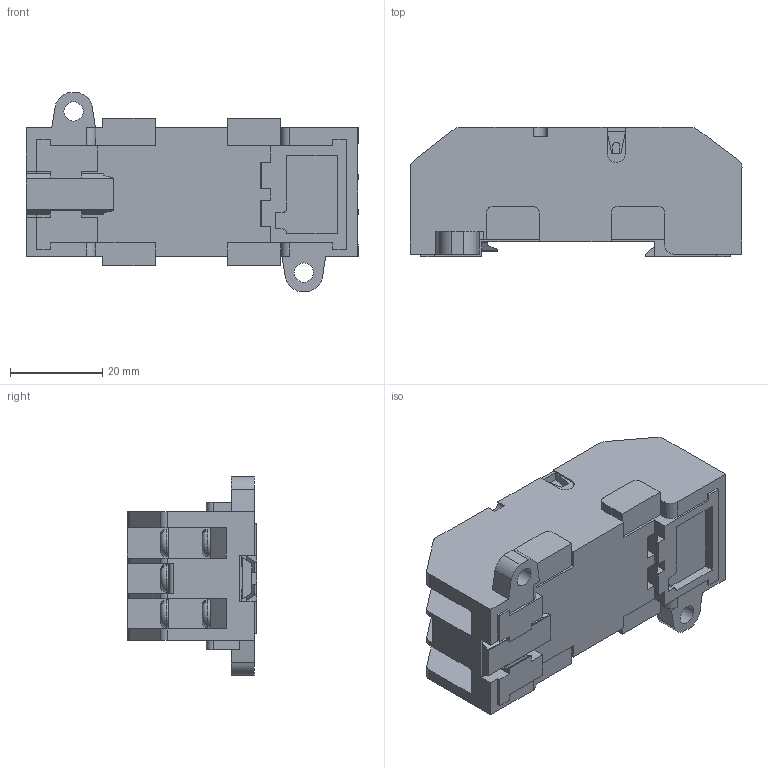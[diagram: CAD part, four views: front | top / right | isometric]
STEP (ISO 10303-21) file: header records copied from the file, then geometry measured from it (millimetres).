
FILE_DESCRIPTION(('STEP AP214'), '1');
FILE_NAME('Êîëîäêà ÐÏ21-003 òèï 3', '', ('UNSPECIFIED'), ('UNSPECIFIED'), 'ASCON STEP Converter 1.6', 'ASCON Math Kernel', '');
FILE_SCHEMA(('AUTOMOTIVE_DESIGN { 1 0 10303 214 3 1 1}'));
Length unit declared in the file: millimetre
Assembly tree (15 placements, depth 3):
  (unnamed)
    (unnamed)
    (unnamed)  x11
      (unnamed)
      (unnamed)
    (unnamed)
Bounding box: 72.1 x 28.02 x 43 mm (x, y, z)
Volume: 42465.5 mm3; surface area: 16729.9 mm2
Topology: 24 solids, 24 shells, 582 faces, 1478 edges, 971 vertices
Faces by surface type: plane 482, cylinder 78, torus 11, cone 11
Full cylindrical faces by diameter (mm): 2.85 x11, 3 x11, 4.2 x2, 6 x11
Entity records: 16442 total; most frequent: CARTESIAN_POINT 2359, ORIENTED_EDGE 2202, DIRECTION 2036, EDGE_CURVE 1101, LINE 992, VECTOR 992, VERTEX_POINT 731, AXIS2_PLACEMENT_3D 522
